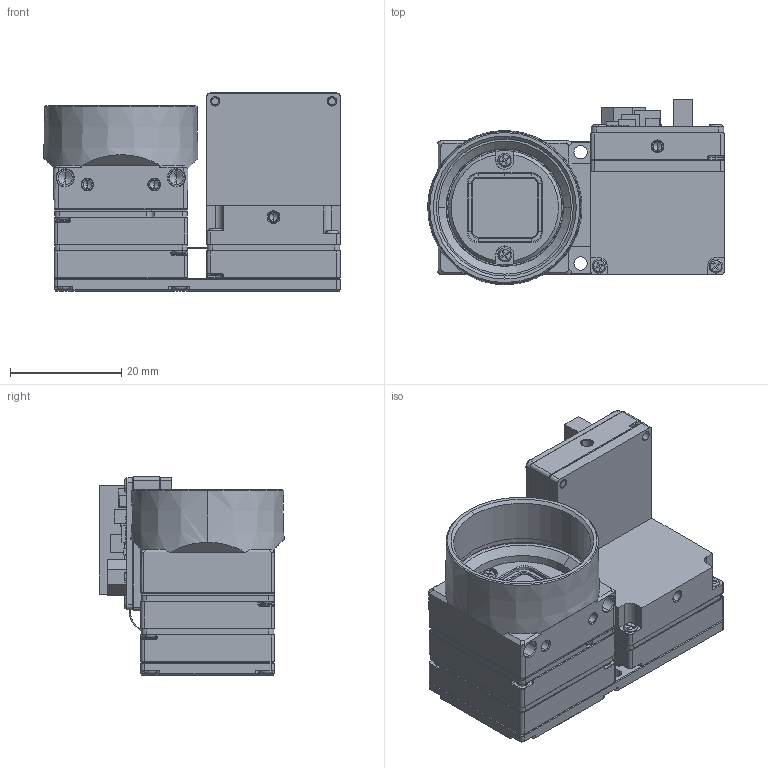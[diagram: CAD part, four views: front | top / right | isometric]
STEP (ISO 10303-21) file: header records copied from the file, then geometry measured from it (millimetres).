
FILE_DESCRIPTION (( 'STEP AP203' ), '1' );
FILE_NAME ('408-379-A_FFC_180+90.STEP', '2023-03-02T07:48:17', ( '' ), ( '' ), 'SwSTEP 2.0', 'SolidWorks 2021', '' );
FILE_SCHEMA (( 'CONFIG_CONTROL_DESIGN' ));
Length unit declared in the file: millimetre
Products named in the file (1): 408-379-A_FFC_180+90
Bounding box: 53.31 x 33.29 x 35.6 mm (x, y, z)
Volume: 14857.3 mm3; surface area: 24538.8 mm2
Topology: 77 solids, 77 shells, 5377 faces, 13608 edges, 8240 vertices
Faces by surface type: plane 2819, cylinder 1435, cone 471, bspline 363, torus 199, sphere 90
Entity records: 165203 total; most frequent: CARTESIAN_POINT 38024, ORIENTED_EDGE 26680, DIRECTION 26093, EDGE_CURVE 13340, VECTOR 8969, LINE 8969, AXIS2_PLACEMENT_3D 8562, VERTEX_POINT 8230
